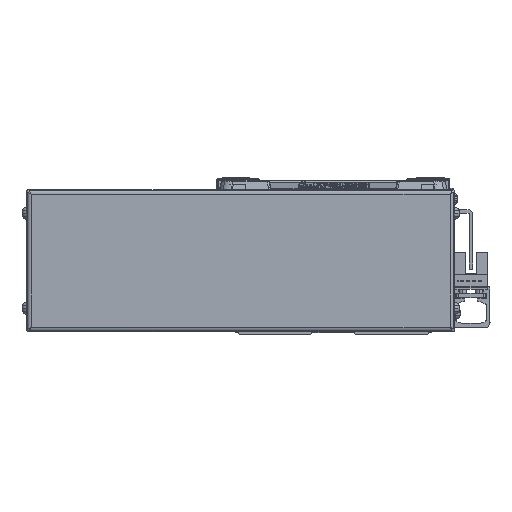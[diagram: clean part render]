
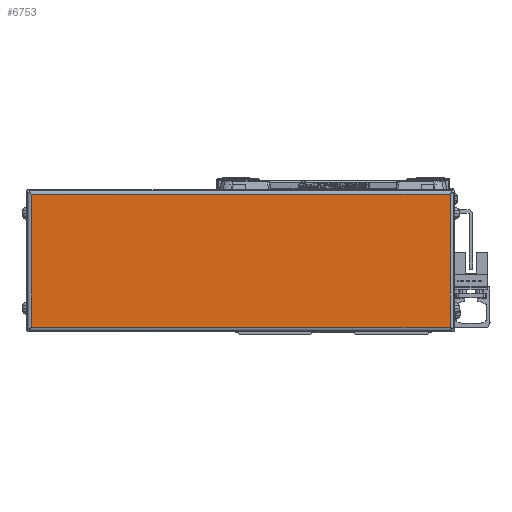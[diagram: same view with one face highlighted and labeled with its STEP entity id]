
A CAD part, left-side view. The second image highlights one B-rep face of the part: STEP entity #6753.
In plain terms, the highlighted planar face has unit normal (-1, 0, 0).
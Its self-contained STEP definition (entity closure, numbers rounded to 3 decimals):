
#6753=ADVANCED_FACE('',(#13934),#13935,.F.);
#13934=FACE_OUTER_BOUND('',#22094,.T.);
#13935=PLANE('',#22095);
#22094=EDGE_LOOP('',(#41648,#41649,#41650,#41651));
#22095=AXIS2_PLACEMENT_3D('',#41652,#41653,#41654);
#41648=ORIENTED_EDGE('',*,*,#53045,.T.);
#41649=ORIENTED_EDGE('',*,*,#47324,.T.);
#41650=ORIENTED_EDGE('',*,*,#52588,.T.);
#41651=ORIENTED_EDGE('',*,*,#46093,.T.);
#41652=CARTESIAN_POINT('',(-616.,39.,0.));
#41653=DIRECTION('',(1.0,0.,0.));
#41654=DIRECTION('',(0.,0.,1.0));
#46093=EDGE_CURVE('',#55335,#55333,#55336,.T.);
#47324=EDGE_CURVE('',#57482,#57480,#57483,.T.);
#52588=EDGE_CURVE('',#57480,#55335,#64995,.T.);
#53045=EDGE_CURVE('',#55333,#57482,#65487,.T.);
#55333=VERTEX_POINT('',#68381);
#55335=VERTEX_POINT('',#68383);
#55336=LINE('',#68384,#68385);
#57480=VERTEX_POINT('',#71340);
#57482=VERTEX_POINT('',#71342);
#57483=LINE('',#71343,#71344);
#64995=LINE('',#81812,#81813);
#65487=LINE('',#82461,#82462);
#68381=CARTESIAN_POINT('',(-616.,-49.2,28.));
#68383=CARTESIAN_POINT('',(-616.,-49.2,-28.));
#68384=CARTESIAN_POINT('',(-616.,-49.2,0.));
#68385=VECTOR('',#84443,10.0);
#71340=CARTESIAN_POINT('',(-616.0,127.2,-28.));
#71342=CARTESIAN_POINT('',(-616.,127.2,28.));
#71343=CARTESIAN_POINT('',(-616.0,127.2,0.));
#71344=VECTOR('',#86137,10.0);
#81812=CARTESIAN_POINT('',(-616.,39.,-28.));
#81813=VECTOR('',#92821,10.0);
#82461=CARTESIAN_POINT('',(-616.,39.,28.));
#82462=VECTOR('',#93182,10.0);
#84443=DIRECTION('',(0.,0.,1.0));
#86137=DIRECTION('',(0.,0.,-1.0));
#92821=DIRECTION('',(0.,-1.0,0.));
#93182=DIRECTION('',(0.,1.0,0.));
